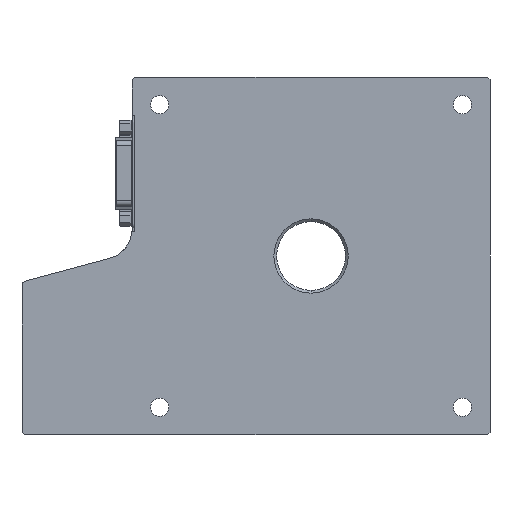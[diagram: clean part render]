
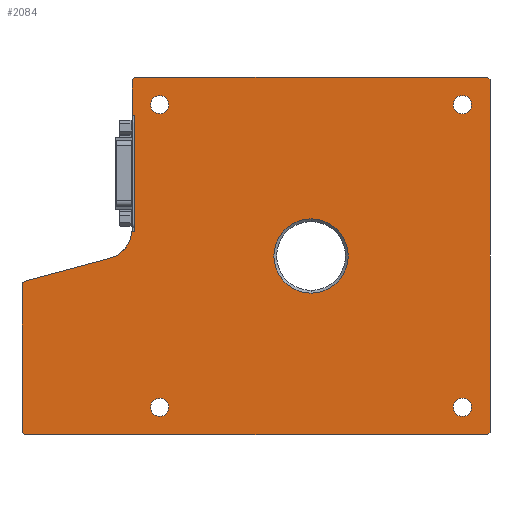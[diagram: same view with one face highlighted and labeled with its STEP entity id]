
A CAD part, front view. The second image highlights one B-rep face of the part: STEP entity #2084.
In plain terms, the highlighted planar face has unit normal (0, -1, 0).
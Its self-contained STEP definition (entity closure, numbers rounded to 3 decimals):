
#2=CARTESIAN_POINT('',(-55.,-22.,-55.));
#3=DIRECTION('',(0.,1.,0.));
#4=DIRECTION('',(1.,0.,0.));
#5=AXIS2_PLACEMENT_3D('',#2,#3,#4);
#7=CARTESIAN_POINT('',(-55.,-22.,-55.));
#8=DIRECTION('',(0.,1.,0.));
#9=DIRECTION('',(-1.,0.,0.));
#10=AXIS2_PLACEMENT_3D('',#7,#8,#9);
#12=CARTESIAN_POINT('',(55.,-22.,-55.));
#13=DIRECTION('',(0.,1.,0.));
#14=DIRECTION('',(1.,0.,0.));
#15=AXIS2_PLACEMENT_3D('',#12,#13,#14);
#17=CARTESIAN_POINT('',(55.,-22.,-55.));
#18=DIRECTION('',(0.,1.,0.));
#19=DIRECTION('',(-1.,0.,0.));
#20=AXIS2_PLACEMENT_3D('',#17,#18,#19);
#22=CARTESIAN_POINT('',(-55.,-22.,55.));
#23=DIRECTION('',(0.,1.,0.));
#24=DIRECTION('',(1.,0.,0.));
#25=AXIS2_PLACEMENT_3D('',#22,#23,#24);
#27=CARTESIAN_POINT('',(-55.,-22.,55.));
#28=DIRECTION('',(0.,1.,0.));
#29=DIRECTION('',(-1.,0.,0.));
#30=AXIS2_PLACEMENT_3D('',#27,#28,#29);
#32=CARTESIAN_POINT('',(55.,-22.,55.));
#33=DIRECTION('',(0.,1.,0.));
#34=DIRECTION('',(1.,0.,0.));
#35=AXIS2_PLACEMENT_3D('',#32,#33,#34);
#37=CARTESIAN_POINT('',(55.,-22.,55.));
#38=DIRECTION('',(0.,1.,0.));
#39=DIRECTION('',(-1.,0.,0.));
#40=AXIS2_PLACEMENT_3D('',#37,#38,#39);
#42=DIRECTION('',(-0.707,0.,-0.707));
#43=VECTOR('',#42,1.414);
#44=CARTESIAN_POINT('',(-64.,-22.,65.));
#45=LINE('',#44,#43);
#46=DIRECTION('',(1.,0.,0.));
#47=VECTOR('',#46,128.);
#48=CARTESIAN_POINT('',(-64.,-22.,65.));
#49=LINE('',#48,#47);
#50=DIRECTION('',(-0.707,0.,0.707));
#51=VECTOR('',#50,1.414);
#52=CARTESIAN_POINT('',(65.,-22.,64.));
#53=LINE('',#52,#51);
#54=DIRECTION('',(0.,0.,-1.));
#55=VECTOR('',#54,128.);
#56=CARTESIAN_POINT('',(65.,-22.,64.));
#57=LINE('',#56,#55);
#58=DIRECTION('',(0.707,0.,0.707));
#59=VECTOR('',#58,1.414);
#60=CARTESIAN_POINT('',(64.,-22.,-65.));
#61=LINE('',#60,#59);
#62=DIRECTION('',(-1.,0.,0.));
#63=VECTOR('',#62,168.);
#64=CARTESIAN_POINT('',(64.,-22.,-65.));
#65=LINE('',#64,#63);
#66=DIRECTION('',(0.707,0.,-0.707));
#67=VECTOR('',#66,1.414);
#68=CARTESIAN_POINT('',(-105.,-22.,-64.));
#69=LINE('',#68,#67);
#70=DIRECTION('',(0.,0.,1.));
#71=VECTOR('',#70,53.854);
#72=CARTESIAN_POINT('',(-105.,-22.,-64.));
#73=LINE('',#72,#71);
#74=DIRECTION('',(-0.609,0.,-0.793));
#75=VECTOR('',#74,1.218);
#76=CARTESIAN_POINT('',(-104.259,-22.,-9.18));
#77=LINE('',#76,#75);
#78=DIRECTION('',(0.966,0.,0.259));
#79=VECTOR('',#78,32.203);
#80=CARTESIAN_POINT('',(-104.259,-22.,-9.18));
#81=LINE('',#80,#79);
#82=CARTESIAN_POINT('',(-76.,-22.,9.78));
#83=DIRECTION('',(0.,-1.,0.));
#84=DIRECTION('',(0.259,0.,-0.966));
#85=AXIS2_PLACEMENT_3D('',#82,#83,#84);
#87=DIRECTION('',(1.,0.,0.));
#88=VECTOR('',#87,1.028);
#89=CARTESIAN_POINT('',(-65.028,-22.,9.));
#90=LINE('',#89,#88);
#91=DIRECTION('',(0.,0.,1.));
#92=VECTOR('',#91,42.);
#93=CARTESIAN_POINT('',(-64.,-22.,9.));
#94=LINE('',#93,#92);
#95=DIRECTION('',(1.,0.,0.));
#96=VECTOR('',#95,1.);
#97=CARTESIAN_POINT('',(-65.,-22.,51.));
#98=LINE('',#97,#96);
#99=DIRECTION('',(0.,0.,1.));
#100=VECTOR('',#99,13.);
#101=CARTESIAN_POINT('',(-65.,-22.,51.));
#102=LINE('',#101,#100);
#103=CARTESIAN_POINT('',(0.,-22.,0.));
#104=DIRECTION('',(0.,1.,0.));
#105=DIRECTION('',(0.,0.,1.));
#106=AXIS2_PLACEMENT_3D('',#103,#104,#105);
#108=CARTESIAN_POINT('',(0.,-22.,0.));
#109=DIRECTION('',(0.,1.,0.));
#110=DIRECTION('',(0.,0.,-1.));
#111=AXIS2_PLACEMENT_3D('',#108,#109,#110);
#1567=CARTESIAN_POINT('',(-51.7,-22.,-55.));
#1568=CARTESIAN_POINT('',(-58.3,-22.,-55.));
#1569=VERTEX_POINT('',#1567);
#1570=VERTEX_POINT('',#1568);
#1579=CARTESIAN_POINT('',(58.3,-22.,-55.));
#1580=CARTESIAN_POINT('',(51.7,-22.,-55.));
#1581=VERTEX_POINT('',#1579);
#1582=VERTEX_POINT('',#1580);
#1591=CARTESIAN_POINT('',(-51.7,-22.,55.));
#1592=CARTESIAN_POINT('',(-58.3,-22.,55.));
#1593=VERTEX_POINT('',#1591);
#1594=VERTEX_POINT('',#1592);
#1603=CARTESIAN_POINT('',(58.3,-22.,55.));
#1604=CARTESIAN_POINT('',(51.7,-22.,55.));
#1605=VERTEX_POINT('',#1603);
#1606=VERTEX_POINT('',#1604);
#1607=CARTESIAN_POINT('',(-64.,-22.,65.));
#1608=CARTESIAN_POINT('',(-65.,-22.,64.));
#1609=VERTEX_POINT('',#1607);
#1610=VERTEX_POINT('',#1608);
#1615=CARTESIAN_POINT('',(-104.259,-22.,-9.18));
#1616=CARTESIAN_POINT('',(-105.,-22.,-10.146));
#1617=VERTEX_POINT('',#1615);
#1618=VERTEX_POINT('',#1616);
#1623=CARTESIAN_POINT('',(-105.,-22.,-64.));
#1624=CARTESIAN_POINT('',(-104.,-22.,-65.));
#1625=VERTEX_POINT('',#1623);
#1626=VERTEX_POINT('',#1624);
#1729=CARTESIAN_POINT('',(65.,-22.,64.));
#1730=CARTESIAN_POINT('',(64.,-22.,65.));
#1731=VERTEX_POINT('',#1729);
#1732=VERTEX_POINT('',#1730);
#1737=CARTESIAN_POINT('',(64.,-22.,-65.));
#1738=CARTESIAN_POINT('',(65.,-22.,-64.));
#1739=VERTEX_POINT('',#1737);
#1740=VERTEX_POINT('',#1738);
#1745=CARTESIAN_POINT('',(-73.153,-22.,-0.845));
#1746=VERTEX_POINT('',#1745);
#1771=CARTESIAN_POINT('',(-64.,-22.,9.));
#1772=CARTESIAN_POINT('',(-64.,-22.,51.));
#1773=VERTEX_POINT('',#1771);
#1774=VERTEX_POINT('',#1772);
#1775=CARTESIAN_POINT('',(-65.,-22.,51.));
#1776=VERTEX_POINT('',#1775);
#1777=CARTESIAN_POINT('',(-65.028,-22.,9.));
#1778=VERTEX_POINT('',#1777);
#1969=CARTESIAN_POINT('',(0.,-22.,13.5));
#1970=CARTESIAN_POINT('',(0.,-22.,-13.5));
#1971=VERTEX_POINT('',#1969);
#1972=VERTEX_POINT('',#1970);
#2017=CARTESIAN_POINT('',(0.,-22.,0.));
#2018=DIRECTION('',(0.,1.,0.));
#2019=DIRECTION('',(1.,0.,0.));
#2020=AXIS2_PLACEMENT_3D('',#2017,#2018,#2019);
#2021=PLANE('',#2020);
#2023=ORIENTED_EDGE('',*,*,#2022,.F.);
#2025=ORIENTED_EDGE('',*,*,#2024,.T.);
#2027=ORIENTED_EDGE('',*,*,#2026,.F.);
#2029=ORIENTED_EDGE('',*,*,#2028,.T.);
#2031=ORIENTED_EDGE('',*,*,#2030,.F.);
#2033=ORIENTED_EDGE('',*,*,#2032,.T.);
#2035=ORIENTED_EDGE('',*,*,#2034,.F.);
#2037=ORIENTED_EDGE('',*,*,#2036,.T.);
#2039=ORIENTED_EDGE('',*,*,#2038,.F.);
#2041=ORIENTED_EDGE('',*,*,#2040,.T.);
#2043=ORIENTED_EDGE('',*,*,#2042,.T.);
#2045=ORIENTED_EDGE('',*,*,#2044,.T.);
#2047=ORIENTED_EDGE('',*,*,#2046,.T.);
#2049=ORIENTED_EDGE('',*,*,#2048,.F.);
#2051=ORIENTED_EDGE('',*,*,#2050,.T.);
#2052=EDGE_LOOP('',(#2023,#2025,#2027,#2029,#2031,#2033,#2035,#2037,#2039,#2041,
#2043,#2045,#2047,#2049,#2051));
#2053=FACE_OUTER_BOUND('',#2052,.F.);
#2055=ORIENTED_EDGE('',*,*,#2054,.F.);
#2057=ORIENTED_EDGE('',*,*,#2056,.F.);
#2058=EDGE_LOOP('',(#2055,#2057));
#2059=FACE_BOUND('',#2058,.F.);
#2061=ORIENTED_EDGE('',*,*,#2060,.F.);
#2063=ORIENTED_EDGE('',*,*,#2062,.F.);
#2064=EDGE_LOOP('',(#2061,#2063));
#2065=FACE_BOUND('',#2064,.F.);
#2067=ORIENTED_EDGE('',*,*,#2066,.F.);
#2069=ORIENTED_EDGE('',*,*,#2068,.F.);
#2070=EDGE_LOOP('',(#2067,#2069));
#2071=FACE_BOUND('',#2070,.F.);
#2073=ORIENTED_EDGE('',*,*,#2072,.F.);
#2075=ORIENTED_EDGE('',*,*,#2074,.F.);
#2076=EDGE_LOOP('',(#2073,#2075));
#2077=FACE_BOUND('',#2076,.F.);
#2079=ORIENTED_EDGE('',*,*,#2078,.F.);
#2081=ORIENTED_EDGE('',*,*,#2080,.F.);
#2082=EDGE_LOOP('',(#2079,#2081));
#2083=FACE_BOUND('',#2082,.F.);
#2084=ADVANCED_FACE('',(#2053,#2059,#2065,#2071,#2077,#2083),#2021,.F.);
#6=CIRCLE('',#5,3.3);
#11=CIRCLE('',#10,3.3);
#16=CIRCLE('',#15,3.3);
#21=CIRCLE('',#20,3.3);
#26=CIRCLE('',#25,3.3);
#31=CIRCLE('',#30,3.3);
#36=CIRCLE('',#35,3.3);
#41=CIRCLE('',#40,3.3);
#86=CIRCLE('',#85,11.);
#107=CIRCLE('',#106,13.5);
#112=CIRCLE('',#111,13.5);
#2022=EDGE_CURVE('',#1609,#1610,#45,.T.);
#2024=EDGE_CURVE('',#1609,#1732,#49,.T.);
#2026=EDGE_CURVE('',#1731,#1732,#53,.T.);
#2028=EDGE_CURVE('',#1731,#1740,#57,.T.);
#2030=EDGE_CURVE('',#1739,#1740,#61,.T.);
#2032=EDGE_CURVE('',#1739,#1626,#65,.T.);
#2034=EDGE_CURVE('',#1625,#1626,#69,.T.);
#2036=EDGE_CURVE('',#1625,#1618,#73,.T.);
#2038=EDGE_CURVE('',#1617,#1618,#77,.T.);
#2040=EDGE_CURVE('',#1617,#1746,#81,.T.);
#2042=EDGE_CURVE('',#1746,#1778,#86,.T.);
#2044=EDGE_CURVE('',#1778,#1773,#90,.T.);
#2046=EDGE_CURVE('',#1773,#1774,#94,.T.);
#2048=EDGE_CURVE('',#1776,#1774,#98,.T.);
#2050=EDGE_CURVE('',#1776,#1610,#102,.T.);
#2054=EDGE_CURVE('',#1581,#1582,#16,.T.);
#2056=EDGE_CURVE('',#1582,#1581,#21,.T.);
#2060=EDGE_CURVE('',#1593,#1594,#26,.T.);
#2062=EDGE_CURVE('',#1594,#1593,#31,.T.);
#2066=EDGE_CURVE('',#1605,#1606,#36,.T.);
#2068=EDGE_CURVE('',#1606,#1605,#41,.T.);
#2072=EDGE_CURVE('',#1569,#1570,#6,.T.);
#2074=EDGE_CURVE('',#1570,#1569,#11,.T.);
#2078=EDGE_CURVE('',#1971,#1972,#107,.T.);
#2080=EDGE_CURVE('',#1972,#1971,#112,.T.);
